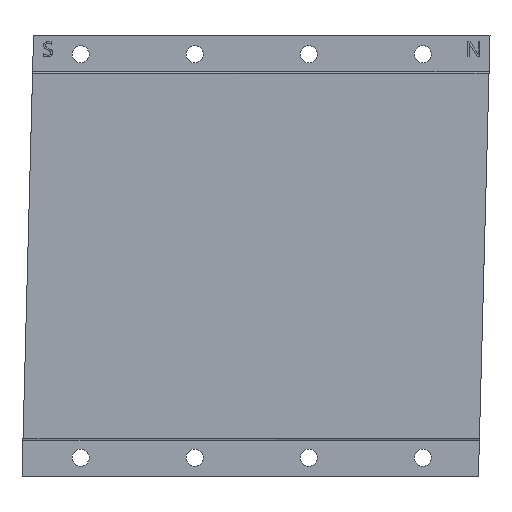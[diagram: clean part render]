
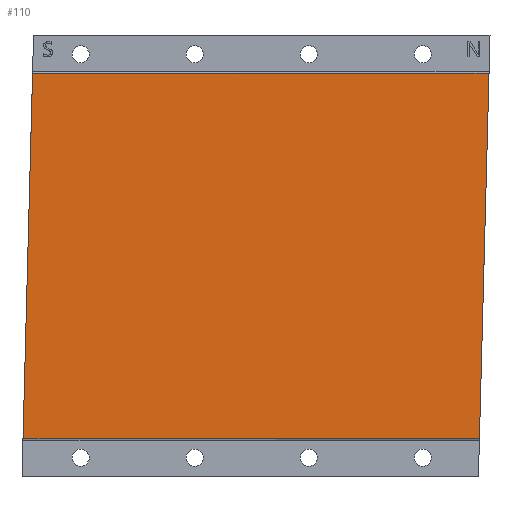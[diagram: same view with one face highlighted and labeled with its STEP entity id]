
A CAD part, front view. The second image highlights one B-rep face of the part: STEP entity #110.
In plain terms, the highlighted planar face has unit normal (0, -1, 0).
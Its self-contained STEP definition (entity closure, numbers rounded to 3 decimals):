
#110 = ADVANCED_FACE( '', ( #251 ), #252, .F. );
#251 = FACE_OUTER_BOUND( '', #401, .T. );
#252 = PLANE( '', #402 );
#401 = EDGE_LOOP( '', ( #703, #704, #705, #706 ) );
#402 = AXIS2_PLACEMENT_3D( '', #707, #708, #709 );
#703 = ORIENTED_EDGE( '', *, *, #970, .F. );
#704 = ORIENTED_EDGE( '', *, *, #883, .T. );
#705 = ORIENTED_EDGE( '', *, *, #917, .F. );
#706 = ORIENTED_EDGE( '', *, *, #879, .T. );
#707 = CARTESIAN_POINT( '', ( 0., -5.6, 0. ) );
#708 = DIRECTION( '', ( 0., 1., 0. ) );
#709 = DIRECTION( '', ( 0., 0., 1. ) );
#879 = EDGE_CURVE( '', #1024, #1022, #1025, .F. );
#883 = EDGE_CURVE( '', #1031, #1028, #1032, .F. );
#917 = EDGE_CURVE( '', #1024, #1028, #1089, .T. );
#970 = EDGE_CURVE( '', #1031, #1022, #1169, .T. );
#1022 = VERTEX_POINT( '', #1234 );
#1024 = VERTEX_POINT( '', #1236 );
#1025 = LINE( '', #1237, #1238 );
#1028 = VERTEX_POINT( '', #1241 );
#1031 = VERTEX_POINT( '', #1244 );
#1032 = LINE( '', #1245, #1246 );
#1089 = LINE( '', #1370, #1371 );
#1169 = LINE( '', #1576, #1577 );
#1234 = CARTESIAN_POINT( '', ( -173.704, -5.6, 40.968 ) );
#1236 = CARTESIAN_POINT( '', ( -53.703, -5.6, 40.968 ) );
#1237 = CARTESIAN_POINT( '', ( -173.693, -5.6, 40.968 ) );
#1238 = VECTOR( '', #1674, 1000. );
#1241 = CARTESIAN_POINT( '', ( -56.222, -5.6, -55.232 ) );
#1244 = CARTESIAN_POINT( '', ( -176.219, -5.6, -55.232 ) );
#1245 = CARTESIAN_POINT( '', ( 123.767, -5.6, -55.232 ) );
#1246 = VECTOR( '', #1681, 1000. );
#1370 = CARTESIAN_POINT( '', ( -53.693, -5.6, 41.368 ) );
#1371 = VECTOR( '', #1728, 1000. );
#1576 = CARTESIAN_POINT( '', ( -176.23, -5.6, -55.632 ) );
#1577 = VECTOR( '', #1751, 1000. );
#1674 = DIRECTION( '', ( 1., 0., 0. ) );
#1681 = DIRECTION( '', ( -1., 0., 0. ) );
#1728 = DIRECTION( '', ( -0.026, 0., -1. ) );
#1751 = DIRECTION( '', ( 0.026, 0., 1. ) );
